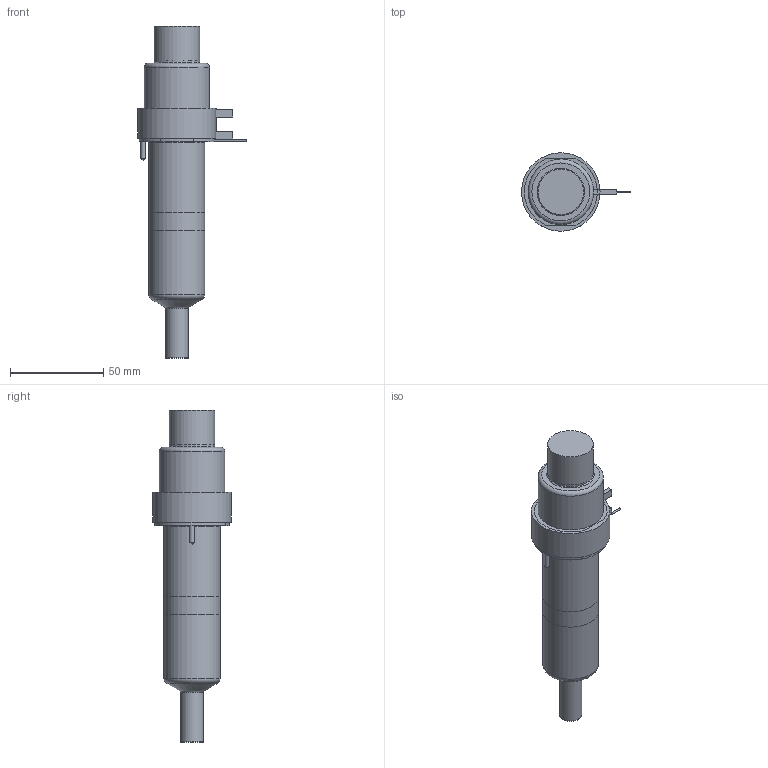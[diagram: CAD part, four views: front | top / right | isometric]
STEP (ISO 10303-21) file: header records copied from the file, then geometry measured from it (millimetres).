
FILE_DESCRIPTION(/* description */ (''),/* implementation_level */ '2;1');
FILE_NAME(/* name */ 'SXTSX-SXISX-SXOSX16095_250C_b',/* time_stamp */ '2008-04-30T09:07:08+12:00',/* author */ (''),/* organization */ (''),/* preprocessor_version */ 'ST-DEVELOPER v9',/* originating_system */ 'UGS - NX 4.0',/* authorisation */ '');
FILE_SCHEMA (('CONFIG_CONTROL_DESIGN'));
Length unit declared in the file: millimetre
Products named in the file (1): SXTSX-SXISX-SXOSX16095_250C_b
Bounding box: 58.25 x 42 x 177.58 mm (x, y, z)
Volume: 214086.6 mm3; surface area: 37038.3 mm2
Topology: 7 solids, 7 shells, 92 faces, 180 edges, 116 vertices
Faces by surface type: plane 45, cylinder 28, torus 9, cone 9, bspline 1
Full cylindrical faces by diameter (mm): 1 x4, 2.5 x2, 7 x1, 11.61 x1, 12.01 x2, 14.8 x1, 24 x1, 24.4 x1, 25.4 x1, 30 x2, 31.8 x1, 35 x1, 40 x1, 42 x1
Entity records: 2250 total; most frequent: CARTESIAN_POINT 438, DIRECTION 382, ORIENTED_EDGE 268, AXIS2_PLACEMENT_3D 166, EDGE_LOOP 142, EDGE_CURVE 134, VERTEX_POINT 107, ADVANCED_FACE 92
